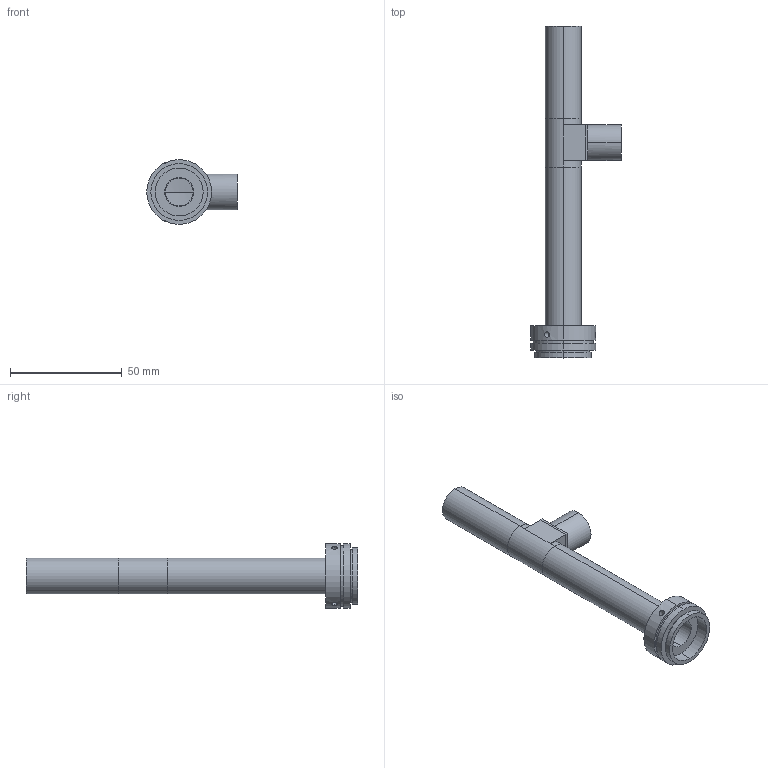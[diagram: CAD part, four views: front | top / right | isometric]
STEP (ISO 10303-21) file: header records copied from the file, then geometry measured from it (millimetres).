
FILE_DESCRIPTION (( 'STEP AP203' ), '1' );
FILE_NAME ('XF-T8X65D.STEP', '2015-07-31T06:00:48', ( 'Lxtx999.CoM' ), ( 'Lxtx999.CoM' ), 'SwSTEP 2.0', 'SolidWorks 2014', '' );
FILE_SCHEMA (( 'CONFIG_CONTROL_DESIGN' ));
Length unit declared in the file: millimetre
Products named in the file (1): XF-T8X65D
Bounding box: 40.5 x 148.68 x 29 mm (x, y, z)
Surface area: 14343.9 mm2 (no closed solid volume)
Topology: 0 solids, 9 shells, 90 faces, 248 edges, 163 vertices
Faces by surface type: cylinder 55, plane 33, sphere 2
Entity records: 3195 total; most frequent: CARTESIAN_POINT 730, DIRECTION 556, ORIENTED_EDGE 428, EDGE_CURVE 248, AXIS2_PLACEMENT_3D 229, VERTEX_POINT 163, CIRCLE 138, EDGE_LOOP 113
